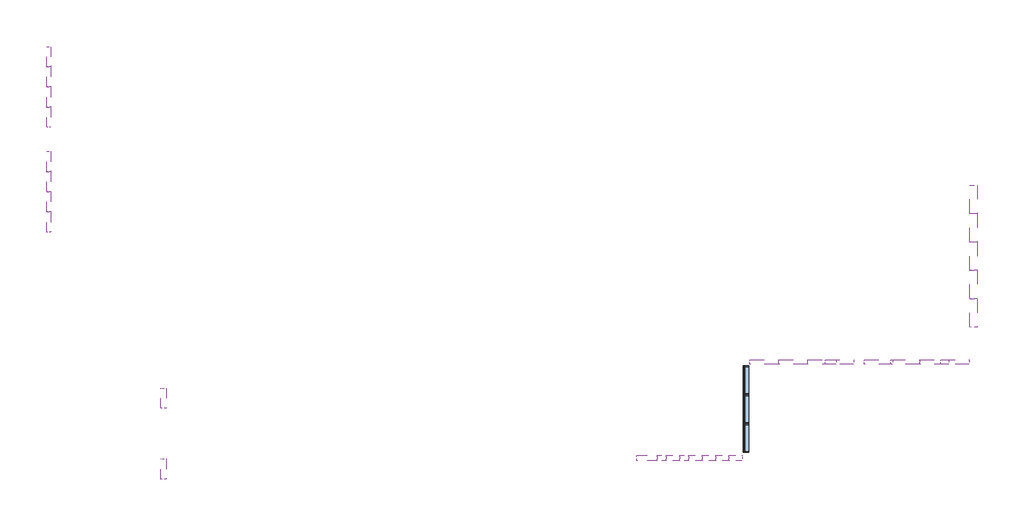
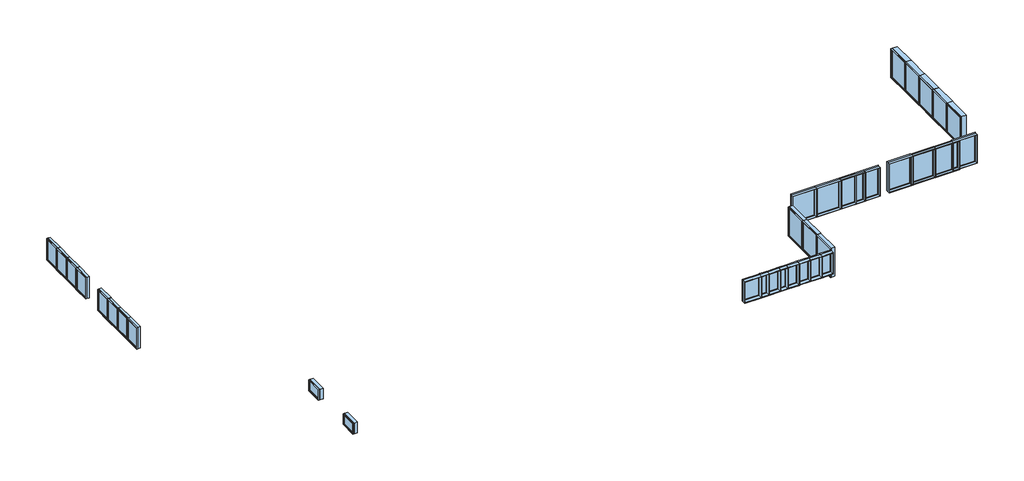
# One storey: 34 windows.
"""IFC4 building model written with IfcOpenShell, lengths in millimetres."""

from ifc_helpers import new_model, si_unit, origin, place, context, project, spatial, transform, mapped, element, save
from components import fijo_0406_x_1220mm_b9d84f0b, fijo_0610_x_1220mm_edc1b5ed, fijo_0915_x_0610mm_10d5d36a, fijo_0915_x_1220mm_488fb2fb, fijo_0915_x_1220mm_3f3afe46, fijo_0915_x_1830mm_e613a56f, fijo_0915_x_1830mm_ee8e0b23, fijo_0915_x_1830mm_9897909d

model = new_model("IFC4")

# Units and contexts
model_context = context("Model", 3, world=origin())
ifc_project = project(units=[si_unit("LENGTHUNIT", "METRE", prefix="MILLI")], contexts=[model_context])

# Site, building, storey
site = spatial("IfcSite", under=ifc_project)
building = spatial("IfcBuilding", under=site)
storey = spatial("IfcBuildingStorey", under=building, Name="35 Solera Calderons", Elevation=100.0)

# Windows
placement = place(None, origin())
fijo_0406_x_1220mm_shape = fijo_0406_x_1220mm_b9d84f0b(model_context)
element("IfcWindow", 1, ObjectType="Fijo : 0406 x 1220mm", at=placement, inside=storey, context=model_context, shape_type="MappedRepresentation", body=[
    mapped(fijo_0406_x_1220mm_shape, transform((8676.4688086, -3930.5518891, 407.5051137), x_axis=(1.0, 0.0, 0.0), y_axis=(0.0, 1.0, 0.0), z_axis=(0.0, 0.0, 1.0))),
])
element("IfcWindow", 2, ObjectType="Fijo : 0406 x 1220mm", at=placement, inside=storey, context=model_context, shape_type="MappedRepresentation", body=[
    mapped(fijo_0406_x_1220mm_shape, transform((9695.4688086, -3930.5518891, 407.5051137), x_axis=(1.0, 0.0, 0.0), y_axis=(0.0, 1.0, 0.0), z_axis=(0.0, 0.0, 1.0))),
])
fijo_0610_x_1220mm_shape = fijo_0610_x_1220mm_edc1b5ed(model_context)
element("IfcWindow", 3, ObjectType="Fijo : 0610 x 1220mm", at=placement, inside=storey, context=model_context, shape_type="MappedRepresentation", body=[
    mapped(fijo_0610_x_1220mm_shape, transform((12036.4688086, -3930.5518891, 408.3885309), x_axis=(1.0, 0.0, 0.0), y_axis=(0.0, 1.0, 0.0), z_axis=(0.0, 0.0, 1.0))),
])
element("IfcWindow", 4, ObjectType="Fijo : 0610 x 1220mm", at=placement, inside=storey, context=model_context, shape_type="MappedRepresentation", body=[
    mapped(fijo_0610_x_1220mm_shape, transform((11426.4688086, -3930.5518891, 408.310356), x_axis=(1.0, 0.0, 0.0), y_axis=(0.0, 1.0, 0.0), z_axis=(0.0, 0.0, 1.0))),
])
element("IfcWindow", 5, ObjectType="Fijo : 0610 x 1220mm", at=placement, inside=storey, context=model_context, shape_type="MappedRepresentation", body=[
    mapped(fijo_0610_x_1220mm_shape, transform((10816.4688086, -3930.5518891, 409.1577348), x_axis=(1.0, 0.0, 0.0), y_axis=(0.0, 1.0, 0.0), z_axis=(0.0, 0.0, 1.0))),
])
element("IfcWindow", 6, ObjectType="Fijo : 0610 x 1220mm", at=placement, inside=storey, context=model_context, shape_type="MappedRepresentation", body=[
    mapped(fijo_0610_x_1220mm_shape, transform((10206.4688086, -3930.5518891, 408.3524925), x_axis=(1.0, 0.0, 0.0), y_axis=(0.0, 1.0, 0.0), z_axis=(0.0, 0.0, 1.0))),
])
element("IfcWindow", 7, ObjectType="Fijo : 0610 x 1220mm", at=placement, inside=storey, context=model_context, shape_type="MappedRepresentation", body=[
    mapped(fijo_0610_x_1220mm_shape, transform((9183.9688086, -3930.5518891, 407.5051137), x_axis=(1.0, 0.0, 0.0), y_axis=(0.0, 1.0, 0.0), z_axis=(0.0, 0.0, 1.0))),
])
fijo_0915_x_0610mm_shape = fijo_0915_x_0610mm_10d5d36a(model_context)
element("IfcWindow", 8, ObjectType="Fijo : 0915 x 0610mm", at=placement, inside=storey, context=model_context, shape_type="MappedRepresentation", body=[
    mapped(fijo_0915_x_0610mm_shape, transform((-13940.4635346, -1202.7899843, 998.2756678), x_axis=(0.0, 1.0, 0.0), y_axis=(-1.0, 0.0, 0.0), z_axis=(0.0, 0.0, 1.0))),
])
element("IfcWindow", 9, ObjectType="Fijo : 0915 x 0610mm", at=placement, inside=storey, context=model_context, shape_type="MappedRepresentation", body=[
    mapped(fijo_0915_x_0610mm_shape, transform((-13940.4635346, -4417.7899843, 1014.6506121), x_axis=(0.0, 1.0, 0.0), y_axis=(-1.0, 0.0, 0.0), z_axis=(0.0, 0.0, 1.0))),
])
fijo_0915_x_1220mm_shape = fijo_0915_x_1220mm_488fb2fb(model_context)
element("IfcWindow", 10, ObjectType="Fijo : 0915 x 1220mm", at=placement, inside=storey, context=model_context, shape_type="MappedRepresentation", body=[
    mapped(fijo_0915_x_1220mm_shape, transform((-19153.8118688, 9552.2100157, 865.0), x_axis=(0.0, 1.0, 0.0), y_axis=(-1.0, 0.0, 0.0), z_axis=(0.0, 0.0, 1.0))),
])
element("IfcWindow", 11, ObjectType="Fijo : 0915 x 1220mm", at=placement, inside=storey, context=model_context, shape_type="MappedRepresentation", body=[
    mapped(fijo_0915_x_1220mm_shape, transform((-19153.8118688, 8632.2100157, 865.2623266), x_axis=(0.0, 1.0, 0.0), y_axis=(-1.0, 0.0, 0.0), z_axis=(0.0, 0.0, 1.0))),
])
element("IfcWindow", 12, ObjectType="Fijo : 0915 x 1220mm", at=placement, inside=storey, context=model_context, shape_type="MappedRepresentation", body=[
    mapped(fijo_0915_x_1220mm_shape, transform((-19153.8118688, 7717.2100157, 878.8402223), x_axis=(0.0, 1.0, 0.0), y_axis=(-1.0, 0.0, 0.0), z_axis=(0.0, 0.0, 1.0))),
])
element("IfcWindow", 13, ObjectType="Fijo : 0915 x 1220mm", at=placement, inside=storey, context=model_context, shape_type="MappedRepresentation", body=[
    mapped(fijo_0915_x_1220mm_shape, transform((-19153.8118688, 6802.2100157, 878.8402223), x_axis=(0.0, 1.0, 0.0), y_axis=(-1.0, 0.0, 0.0), z_axis=(0.0, 0.0, 1.0))),
])
element("IfcWindow", 14, ObjectType="Fijo : 0915 x 1220mm", at=placement, inside=storey, context=model_context, shape_type="MappedRepresentation", body=[
    mapped(fijo_0915_x_1220mm_shape, transform((-19153.8118688, 14317.2100157, 863.7949529), x_axis=(0.0, 1.0, 0.0), y_axis=(-1.0, 0.0, 0.0), z_axis=(0.0, 0.0, 1.0))),
])
element("IfcWindow", 15, ObjectType="Fijo : 0915 x 1220mm", at=placement, inside=storey, context=model_context, shape_type="MappedRepresentation", body=[
    mapped(fijo_0915_x_1220mm_shape, transform((-19153.8118688, 13397.2100157, 863.7949529), x_axis=(0.0, 1.0, 0.0), y_axis=(-1.0, 0.0, 0.0), z_axis=(0.0, 0.0, 1.0))),
])
element("IfcWindow", 16, ObjectType="Fijo : 0915 x 1220mm", at=placement, inside=storey, context=model_context, shape_type="MappedRepresentation", body=[
    mapped(fijo_0915_x_1220mm_shape, transform((-19153.8118688, 12482.2100157, 863.7949529), x_axis=(0.0, 1.0, 0.0), y_axis=(-1.0, 0.0, 0.0), z_axis=(0.0, 0.0, 1.0))),
])
element("IfcWindow", 17, ObjectType="Fijo : 0915 x 1220mm", at=placement, inside=storey, context=model_context, shape_type="MappedRepresentation", body=[
    mapped(fijo_0915_x_1220mm_shape, transform((-19153.8118688, 11567.2100157, 857.3728485), x_axis=(0.0, 1.0, 0.0), y_axis=(-1.0, 0.0, 0.0), z_axis=(0.0, 0.0, 1.0))),
])
fijo_0915_x_1220mm_2_shape = fijo_0915_x_1220mm_3f3afe46(model_context)
element("IfcWindow", 18, ObjectType="Fijo : 0915 x 1220mm", at=placement, inside=storey, context=model_context, shape_type="MappedRepresentation", body=[
    mapped(fijo_0915_x_1220mm_2_shape, transform((8011.4688086, -3930.5518891, 405.810356), x_axis=(1.0, 0.0, 0.0), y_axis=(0.0, 1.0, 0.0), z_axis=(0.0, 0.0, 1.0))),
])
fijo_0915_x_1830mm_shape = fijo_0915_x_1830mm_e613a56f(model_context)
element("IfcWindow", 19, ObjectType="Fijo : 0915 x 1830mm", at=placement, inside=storey, context=model_context, shape_type="MappedRepresentation", body=[
    mapped(fijo_0915_x_1830mm_shape, transform((22002.5869044, 441.7100157, 1064.7863215), x_axis=(1.0, 0.0, 0.0), y_axis=(0.0, 1.0, 0.0), z_axis=(0.0, 0.0, 1.0))),
])
element("IfcWindow", 20, ObjectType="Fijo : 0915 x 1830mm", at=placement, inside=storey, context=model_context, shape_type="MappedRepresentation", body=[
    mapped(fijo_0915_x_1830mm_shape, transform((21056.4122233, 441.7100157, 1042.1972914), x_axis=(1.0, 0.0, 0.0), y_axis=(0.0, 1.0, 0.0), z_axis=(0.0, 0.0, 1.0))),
])
element("IfcWindow", 21, ObjectType="Fijo : 0915 x 1830mm", at=placement, inside=storey, context=model_context, shape_type="MappedRepresentation", body=[
    mapped(fijo_0915_x_1830mm_shape, transform((19737.2499965, 441.7100157, 1042.1972914), x_axis=(1.0, 0.0, 0.0), y_axis=(0.0, 1.0, 0.0), z_axis=(0.0, 0.0, 1.0))),
])
element("IfcWindow", 22, ObjectType="Fijo : 0915 x 1830mm", at=placement, inside=storey, context=model_context, shape_type="MappedRepresentation", body=[
    mapped(fijo_0915_x_1830mm_shape, transform((18531.0753154, 441.7100157, 1049.7269681), x_axis=(1.0, 0.0, 0.0), y_axis=(0.0, 1.0, 0.0), z_axis=(0.0, 0.0, 1.0))),
])
element("IfcWindow", 23, ObjectType="Fijo : 0915 x 1830mm", at=placement, inside=storey, context=model_context, shape_type="MappedRepresentation", body=[
    mapped(fijo_0915_x_1830mm_shape, transform((16759.2039605, 441.7100157, 1017.2566448), x_axis=(1.0, 0.0, 0.0), y_axis=(0.0, 1.0, 0.0), z_axis=(0.0, 0.0, 1.0))),
])
element("IfcWindow", 24, ObjectType="Fijo : 0915 x 1830mm", at=placement, inside=storey, context=model_context, shape_type="MappedRepresentation", body=[
    mapped(fijo_0915_x_1830mm_shape, transform((15960.5591548, 441.7100157, 1017.2566448), x_axis=(1.0, 0.0, 0.0), y_axis=(0.0, 1.0, 0.0), z_axis=(0.0, 0.0, 1.0))),
])
element("IfcWindow", 25, ObjectType="Fijo : 0915 x 1830mm", at=placement, inside=storey, context=model_context, shape_type="MappedRepresentation", body=[
    mapped(fijo_0915_x_1830mm_shape, transform((14646.6155946, 441.7100157, 1017.2566448), x_axis=(1.0, 0.0, 0.0), y_axis=(0.0, 1.0, 0.0), z_axis=(0.0, 0.0, 1.0))),
])
element("IfcWindow", 26, ObjectType="Fijo : 0915 x 1830mm", at=placement, inside=storey, context=model_context, shape_type="MappedRepresentation", body=[
    mapped(fijo_0915_x_1830mm_shape, transform((13329.0869796, 441.7100157, 1022.1972914), x_axis=(1.0, 0.0, 0.0), y_axis=(0.0, 1.0, 0.0), z_axis=(0.0, 0.0, 1.0))),
])
fijo_0915_x_1830mm_2_shape = fijo_0915_x_1830mm_ee8e0b23(model_context)
element("IfcWindow", 27, ObjectType="Fijo : 0915 x 1830mm", at=placement, inside=storey, context=model_context, shape_type="MappedRepresentation", body=[
    mapped(fijo_0915_x_1830mm_2_shape, transform((12519.4688086, -382.7899843, 566.074937), x_axis=(0.0, 1.0, 0.0), y_axis=(-1.0, 0.0, 0.0), z_axis=(0.0, 0.0, 1.0))),
])
element("IfcWindow", 28, ObjectType="Fijo : 0915 x 1830mm", at=placement, inside=storey, context=model_context, shape_type="MappedRepresentation", body=[
    mapped(fijo_0915_x_1830mm_2_shape, transform((12519.4688086, -1697.7899843, 571.835855), x_axis=(0.0, 1.0, 0.0), y_axis=(-1.0, 0.0, 0.0), z_axis=(0.0, 0.0, 1.0))),
])
element("IfcWindow", 29, ObjectType="Fijo : 0915 x 1830mm", at=placement, inside=storey, context=model_context, shape_type="MappedRepresentation", body=[
    mapped(fijo_0915_x_1830mm_2_shape, transform((12519.4688086, -3015.0518891, 567.5967729), x_axis=(0.0, 1.0, 0.0), y_axis=(-1.0, 0.0, 0.0), z_axis=(0.0, 0.0, 1.0))),
])
fijo_0915_x_1830mm_3_shape = fijo_0915_x_1830mm_9897909d(model_context)
element("IfcWindow", 30, ObjectType="Fijo : 0915 x 1830mm", at=placement, inside=storey, context=model_context, shape_type="MappedRepresentation", body=[
    mapped(fijo_0915_x_1830mm_3_shape, transform((22862.3913947, 2677.3467476, 1028.5716347), x_axis=(0.0, 1.0, 0.0), y_axis=(-1.0, 0.0, 0.0), z_axis=(0.0, 0.0, 1.0))),
])
element("IfcWindow", 31, ObjectType="Fijo : 0915 x 1830mm", at=placement, inside=storey, context=model_context, shape_type="MappedRepresentation", body=[
    mapped(fijo_0915_x_1830mm_3_shape, transform((22862.3913947, 3966.7190543, 1028.5716347), x_axis=(0.0, 1.0, 0.0), y_axis=(-1.0, 0.0, 0.0), z_axis=(0.0, 0.0, 1.0))),
])
element("IfcWindow", 32, ObjectType="Fijo : 0915 x 1830mm", at=placement, inside=storey, context=model_context, shape_type="MappedRepresentation", body=[
    mapped(fijo_0915_x_1830mm_3_shape, transform((22862.3913947, 5256.0998368, 1028.5716347), x_axis=(0.0, 1.0, 0.0), y_axis=(-1.0, 0.0, 0.0), z_axis=(0.0, 0.0, 1.0))),
])
element("IfcWindow", 33, ObjectType="Fijo : 0915 x 1830mm", at=placement, inside=storey, context=model_context, shape_type="MappedRepresentation", body=[
    mapped(fijo_0915_x_1830mm_3_shape, transform((22862.3913947, 6545.9706277, 1028.5716347), x_axis=(0.0, 1.0, 0.0), y_axis=(-1.0, 0.0, 0.0), z_axis=(0.0, 0.0, 1.0))),
])
element("IfcWindow", 34, ObjectType="Fijo : 0915 x 1830mm", at=placement, inside=storey, context=model_context, shape_type="MappedRepresentation", body=[
    mapped(fijo_0915_x_1830mm_3_shape, transform((22862.3913947, 7835.3514102, 1028.5716347), x_axis=(0.0, 1.0, 0.0), y_axis=(-1.0, 0.0, 0.0), z_axis=(0.0, 0.0, 1.0))),
])

save(model, "model.ifc")
